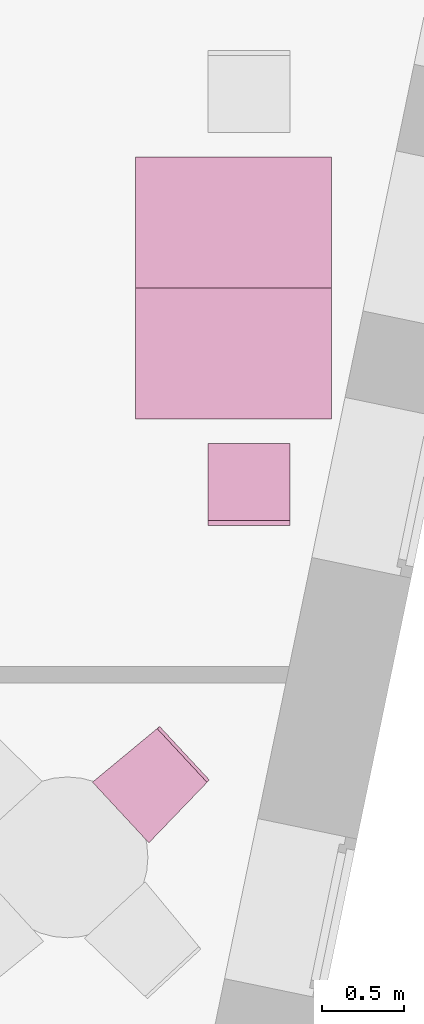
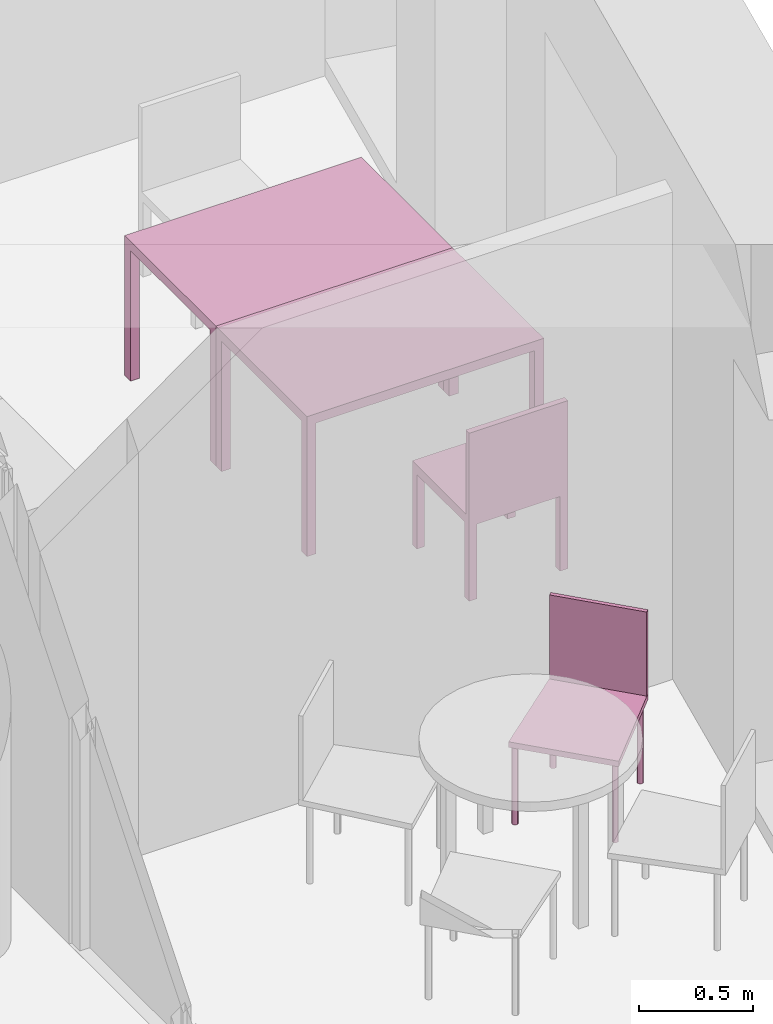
"""IFC4 building model written with IfcOpenShell, lengths in metres."""

from ifc_helpers import new_model, entity, si_unit, converted_unit, derived_unit, frame, origin, place, context, subcontext, project, spatial, faceted_brep, element, save


model = new_model("IFC4")

# Units and contexts
model_context = context("Model", 3, precision=1e-05, world=origin())
body_context = subcontext(model_context, "Body", "Model", "MODEL_VIEW")
ifc_project = project(units=[si_unit("LENGTHUNIT", "METRE"), si_unit("AREAUNIT", "SQUARE_METRE"), si_unit("VOLUMEUNIT", "CUBIC_METRE"), si_unit("MASSUNIT", "GRAM", prefix="KILO"), converted_unit("PLANEANGLEUNIT", "DEGREE", entity("IfcPlaneAngleMeasure", 0.0174532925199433), si_unit("PLANEANGLEUNIT", "RADIAN"), dimensions=[0, 0, 0, 0, 0, 0, 0]), derived_unit("THERMALTRANSMITTANCEUNIT", [(si_unit("POWERUNIT", "WATT"), 1), (si_unit("THERMODYNAMICTEMPERATUREUNIT", "KELVIN"), -1), (si_unit("LENGTHUNIT", "METRE"), -2)]), derived_unit("VOLUMETRICFLOWRATEUNIT", [(si_unit("LENGTHUNIT", "METRE"), 3), (converted_unit("TIMEUNIT", "hour", entity("IfcTimeMeasure", 3600.0), si_unit("TIMEUNIT", "SECOND"), dimensions=[0, 0, 1, 0, 0, 0, 0]), -1), (si_unit("LENGTHUNIT", "METRE"), -1)])], contexts=[model_context])

# Building, storeys
building_placement = place(None, origin())
building = spatial("IfcBuilding", under=ifc_project, at=building_placement, Name="HABITATGE PLURIFAMILIAR", CompositionType="ELEMENT")
storey_1_placement = place(building_placement, frame((0.0, 0.0, 6.25)))
storey_1 = spatial("IfcBuildingStorey", under=building, at=storey_1_placement, Name="PLANTA PRIMERA", CompositionType="ELEMENT", Elevation=6.25)
storey_2_placement = place(storey_1_placement, frame((0.0, 0.0, 3.35)))
storey_2 = spatial("IfcBuildingStorey", under=storey_1, at=storey_2_placement, Name="NOU", CompositionType="PARTIAL")

# Furniture
furniture_1_placement = place(storey_2_placement, frame((423.793146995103, 20.353890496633, -3.35)))
element("IfcFurniture", 1, at=furniture_1_placement, inside=storey_2, Name="Taula 120X80_P1", context=body_context, shape_type="Brep", body=[
    faceted_brep([(0.0464285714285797, 0.0500000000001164, 0.0), (0.0, 0.0500000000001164, 0.0), (0.0, 0.0, 0.0), (0.0464285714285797, 0.0, 0.0), (0.0464285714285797, 0.0, 0.7), (0.0, 0.0, 0.7), (0.0, 0.0500000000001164, 0.7), (0.0464285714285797, 0.0500000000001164, 0.7)], [[[0, 1, 2, 3]], [[4, 5, 6, 7]], [[3, 4, 7, 0]], [[2, 5, 4, 3]], [[1, 6, 5, 2]], [[0, 7, 6, 1]]], orient=[[False], [False], [False], [False], [False], [False]]),
    faceted_brep([(0.0464285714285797, 0.800069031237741, 0.0), (0.0, 0.800069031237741, 0.0), (0.0, 0.750069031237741, 0.0), (0.0464285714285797, 0.750069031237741, 0.0), (0.0464285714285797, 0.750069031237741, 0.7), (0.0, 0.750069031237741, 0.7), (0.0, 0.800069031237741, 0.7), (0.0464285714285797, 0.800069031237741, 0.7)], [[[0, 1, 2, 3]], [[4, 5, 6, 7]], [[3, 4, 7, 0]], [[2, 5, 4, 3]], [[1, 6, 5, 2]], [[0, 7, 6, 1]]], orient=[[False], [False], [False], [False], [False], [False]]),
    faceted_brep([(1.2, 0.05, 0.0), (1.15357142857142, 0.05, 0.0), (1.15357142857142, 0.0, 0.0), (1.2, 0.0, 0.0), (1.2, 0.0, 0.7), (1.15357142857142, 0.0, 0.7), (1.15357142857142, 0.05, 0.7), (1.2, 0.05, 0.7)], [[[0, 1, 2, 3]], [[4, 5, 6, 7]], [[3, 4, 7, 0]], [[2, 5, 4, 3]], [[1, 6, 5, 2]], [[0, 7, 6, 1]]], orient=[[False], [False], [False], [False], [False], [False]]),
    faceted_brep([(1.2, 0.800069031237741, 0.0), (1.15357142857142, 0.800069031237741, 0.0), (1.15357142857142, 0.750069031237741, 0.0), (1.2, 0.750069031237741, 0.0), (1.2, 0.750069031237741, 0.7), (1.15357142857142, 0.750069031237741, 0.7), (1.15357142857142, 0.800069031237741, 0.7), (1.2, 0.800069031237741, 0.7)], [[[0, 1, 2, 3]], [[4, 5, 6, 7]], [[3, 4, 7, 0]], [[2, 5, 4, 3]], [[1, 6, 5, 2]], [[0, 7, 6, 1]]], orient=[[False], [False], [False], [False], [False], [False]]),
    faceted_brep([(1.2, 0.800069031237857, 0.7), (0.0, 0.800069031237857, 0.7), (0.0, 0.0, 0.7), (1.2, 0.0, 0.7), (1.2, 0.0, 0.75), (0.0, 0.0, 0.75), (0.0, 0.800069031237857, 0.75), (1.2, 0.800069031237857, 0.75)], [[[0, 1, 2, 3]], [[4, 5, 6, 7]], [[3, 4, 7, 0]], [[2, 5, 4, 3]], [[1, 6, 5, 2]], [[0, 7, 6, 1]]], orient=[[False], [False], [False], [False], [False], [False]]),
])
furniture_2_placement = place(storey_2_placement, frame((423.793146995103, 19.5538214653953, -3.35)))
element("IfcFurniture", 2, at=furniture_2_placement, inside=storey_2, Name="Taula 120X80_P1", context=body_context, shape_type="Brep", body=[
    faceted_brep([(0.0464285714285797, 0.750069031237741, 0.0), (0.0464285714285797, 0.800069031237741, 0.0), (0.0, 0.800069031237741, 0.0), (0.0, 0.750069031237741, 0.0), (0.0464285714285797, 0.800069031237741, 0.7), (0.0464285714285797, 0.750069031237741, 0.7), (0.0, 0.750069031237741, 0.7), (0.0, 0.800069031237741, 0.7)], [[[0, 1, 2, 3]], [[4, 5, 6, 7]], [[1, 0, 5, 4]], [[2, 1, 4, 7]], [[3, 2, 7, 6]], [[0, 3, 6, 5]]], orient=[[False], [False], [False], [False], [False], [False]]),
    faceted_brep([(0.0464285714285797, 0.0, 0.0), (0.0464285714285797, 0.0500000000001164, 0.0), (0.0, 0.0500000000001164, 0.0), (0.0, 0.0, 0.0), (0.0464285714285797, 0.0500000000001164, 0.7), (0.0464285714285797, 0.0, 0.7), (0.0, 0.0, 0.7), (0.0, 0.0500000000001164, 0.7)], [[[0, 1, 2, 3]], [[4, 5, 6, 7]], [[1, 0, 5, 4]], [[2, 1, 4, 7]], [[3, 2, 7, 6]], [[0, 3, 6, 5]]], orient=[[False], [False], [False], [False], [False], [False]]),
    faceted_brep([(1.2, 0.750069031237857, 0.0), (1.2, 0.800069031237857, 0.0), (1.15357142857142, 0.800069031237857, 0.0), (1.15357142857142, 0.750069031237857, 0.0), (1.2, 0.800069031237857, 0.7), (1.2, 0.750069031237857, 0.7), (1.15357142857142, 0.750069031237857, 0.7), (1.15357142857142, 0.800069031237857, 0.7)], [[[0, 1, 2, 3]], [[4, 5, 6, 7]], [[1, 0, 5, 4]], [[2, 1, 4, 7]], [[3, 2, 7, 6]], [[0, 3, 6, 5]]], orient=[[False], [False], [False], [False], [False], [False]]),
    faceted_brep([(1.2, 0.0, 0.0), (1.2, 0.0500000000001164, 0.0), (1.15357142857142, 0.0500000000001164, 0.0), (1.15357142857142, 0.0, 0.0), (1.2, 0.0500000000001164, 0.7), (1.2, 0.0, 0.7), (1.15357142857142, 0.0, 0.7), (1.15357142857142, 0.0500000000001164, 0.7)], [[[0, 1, 2, 3]], [[4, 5, 6, 7]], [[1, 0, 5, 4]], [[2, 1, 4, 7]], [[3, 2, 7, 6]], [[0, 3, 6, 5]]], orient=[[False], [False], [False], [False], [False], [False]]),
    faceted_brep([(1.2, 0.0, 0.7), (1.2, 0.800069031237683, 0.7), (0.0, 0.800069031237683, 0.7), (0.0, 0.0, 0.7), (1.2, 0.800069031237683, 0.75), (1.2, 0.0, 0.75), (0.0, 0.0, 0.75), (0.0, 0.800069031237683, 0.75)], [[[0, 1, 2, 3]], [[4, 5, 6, 7]], [[1, 0, 5, 4]], [[2, 1, 4, 7]], [[3, 2, 7, 6]], [[0, 3, 6, 5]]], orient=[[False], [False], [False], [False], [False], [False]]),
])
furniture_3_placement = place(storey_2_placement, frame((424.238875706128, 18.9018937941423, -3.34942958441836)))
element("IfcFurniture", 3, at=furniture_3_placement, inside=storey_2, Name="Cadira d'Oficina_P1", context=body_context, shape_type="Brep", body=[
    faceted_brep([(0.0, 0.500000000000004, 0.4), (0.0, 0.0, 0.4), (0.5, 0.0, 0.4), (0.5, 0.500000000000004, 0.4), (0.0, 0.0, 0.45), (0.0, 0.500000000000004, 0.45), (0.5, 0.500000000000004, 0.45), (0.5, 0.0, 0.45)], [[[0, 1, 2, 3]], [[4, 5, 6, 7]], [[1, 0, 5, 4]], [[2, 1, 4, 7]], [[3, 2, 7, 6]], [[0, 3, 6, 5]]], orient=[[False], [False], [False], [False], [False], [False]]),
    faceted_brep([(0.5, 0.04, 0.0), (0.46, 0.04, 0.0), (0.46, 0.0, 0.0), (0.5, 0.0, 0.0), (0.46, 0.04, 0.4), (0.5, 0.04, 0.4), (0.5, 0.0, 0.4), (0.46, 0.0, 0.4)], [[[0, 1, 2, 3]], [[4, 5, 6, 7]], [[1, 0, 5, 4]], [[2, 1, 4, 7]], [[3, 2, 7, 6]], [[0, 3, 6, 5]]], orient=[[False], [False], [False], [False], [False], [False]]),
    faceted_brep([(0.5, 0.500000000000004, 0.0), (0.46, 0.500000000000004, 0.0), (0.46, 0.460000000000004, 0.0), (0.5, 0.460000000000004, 0.0), (0.46, 0.500000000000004, 0.4), (0.5, 0.500000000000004, 0.4), (0.5, 0.460000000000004, 0.4), (0.46, 0.460000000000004, 0.4)], [[[0, 1, 2, 3]], [[4, 5, 6, 7]], [[1, 0, 5, 4]], [[2, 1, 4, 7]], [[3, 2, 7, 6]], [[0, 3, 6, 5]]], orient=[[False], [False], [False], [False], [False], [False]]),
    faceted_brep([(0.04, 0.04, 0.0), (0.0, 0.04, 0.0), (0.0, 0.0, 0.0), (0.04, 0.0, 0.0), (0.0, 0.04, 0.4), (0.04, 0.04, 0.4), (0.04, 0.0, 0.4), (0.0, 0.0, 0.4)], [[[0, 1, 2, 3]], [[4, 5, 6, 7]], [[1, 0, 5, 4]], [[2, 1, 4, 7]], [[3, 2, 7, 6]], [[0, 3, 6, 5]]], orient=[[False], [False], [False], [False], [False], [False]]),
    faceted_brep([(0.04, 0.500000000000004, 0.0), (0.0, 0.500000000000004, 0.0), (0.0, 0.460000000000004, 0.0), (0.04, 0.460000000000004, 0.0), (0.0, 0.500000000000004, 0.4), (0.04, 0.500000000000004, 0.4), (0.04, 0.460000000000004, 0.4), (0.0, 0.460000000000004, 0.4)], [[[0, 1, 2, 3]], [[4, 5, 6, 7]], [[1, 0, 5, 4]], [[2, 1, 4, 7]], [[3, 2, 7, 6]], [[0, 3, 6, 5]]], orient=[[False], [False], [False], [False], [False], [False]]),
    faceted_brep([(0.5, 0.03, 0.45), (0.0, 0.03, 0.45), (0.0, 0.0, 0.45), (0.5, 0.0, 0.45), (0.0, 0.03, 0.9), (0.5, 0.03, 0.9), (0.5, 0.0, 0.9), (0.0, 0.0, 0.9)], [[[0, 1, 2, 3]], [[4, 5, 6, 7]], [[1, 0, 5, 4]], [[2, 1, 4, 7]], [[3, 2, 7, 6]], [[0, 3, 6, 5]]], orient=[[False], [False], [False], [False], [False], [False]]),
])
furniture_4_placement = place(storey_2_placement, frame((423.531584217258, 16.9610238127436, -3.35114412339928)))
element("IfcFurniture", 4, at=furniture_4_placement, inside=storey_2, Name="Cadira confient_P1", context=body_context, shape_type="Brep", body=[
    faceted_brep([(0.356669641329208, 0.0238389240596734, 0.0), (0.358424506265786, 0.0257626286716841, 0.0), (0.359818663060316, 0.027961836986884, 0.0), (0.360809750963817, 0.0303697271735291, 0.0), (0.361367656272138, 0.0329131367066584, 0.0), (0.361475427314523, 0.0355147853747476, 0.0), (0.361129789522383, 0.0380956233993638, 0.0), (0.360341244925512, 0.0405772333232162, 0.0), (0.359133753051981, 0.0428842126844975, 0.0), (0.357544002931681, 0.0449464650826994, 0.0), (0.355620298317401, 0.046701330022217, 0.0), (0.353421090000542, 0.0480954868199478, 0.0), (0.351013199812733, 0.0490865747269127, 0.0), (0.348469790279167, 0.0496444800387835, 0.0), (0.345868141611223, 0.0497522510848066, 0.0), (0.343287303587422, 0.0494066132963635, 0.0), (0.340805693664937, 0.0486180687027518, 0.0), (0.338498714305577, 0.0474105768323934, 0.0), (0.336436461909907, 0.0458208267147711, 0.0), (0.334681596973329, 0.0438971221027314, 0.0), (0.333287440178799, 0.0416979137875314, 0.0), (0.332296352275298, 0.0392900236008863, 0.0), (0.331738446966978, 0.036746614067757, 0.0), (0.331630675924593, 0.0341449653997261, 0.0), (0.331976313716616, 0.0315641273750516, 0.0), (0.332764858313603, 0.0290825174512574, 0.0), (0.333972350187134, 0.0267755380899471, 0.0), (0.335562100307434, 0.0247132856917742, 0.0), (0.337485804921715, 0.0229584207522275, 0.0), (0.339685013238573, 0.0215642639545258, 0.0), (0.342092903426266, 0.0205731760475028, 0.0), (0.344636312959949, 0.0200152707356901, 0.0), (0.347237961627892, 0.0199074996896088, 0.0), (0.349818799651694, 0.0202531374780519, 0.0), (0.352300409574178, 0.0210416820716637, 0.0), (0.354607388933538, 0.022249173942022, 0.0), (0.356669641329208, 0.0238389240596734, 0.448281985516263), (0.354607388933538, 0.022249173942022, 0.448281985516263), (0.352300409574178, 0.0210416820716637, 0.448281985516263), (0.349818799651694, 0.0202531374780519, 0.448281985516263), (0.347237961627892, 0.0199074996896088, 0.448281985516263), (0.344636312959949, 0.0200152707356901, 0.448281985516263), (0.342092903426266, 0.0205731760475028, 0.448281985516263), (0.339685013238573, 0.0215642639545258, 0.448281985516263), (0.337485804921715, 0.0229584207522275, 0.448281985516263), (0.335562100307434, 0.0247132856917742, 0.448281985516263), (0.333972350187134, 0.0267755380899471, 0.448281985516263), (0.332764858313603, 0.0290825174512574, 0.448281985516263), (0.331976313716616, 0.0315641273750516, 0.448281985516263), (0.331630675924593, 0.0341449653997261, 0.448281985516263), (0.331738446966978, 0.036746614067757, 0.448281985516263), (0.332296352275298, 0.0392900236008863, 0.448281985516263), (0.333287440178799, 0.0416979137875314, 0.448281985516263), (0.334681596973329, 0.0438971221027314, 0.448281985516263), (0.336436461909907, 0.0458208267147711, 0.448281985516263), (0.338498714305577, 0.0474105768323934, 0.448281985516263), (0.340805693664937, 0.0486180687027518, 0.448281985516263), (0.343287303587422, 0.0494066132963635, 0.448281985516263), (0.345868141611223, 0.0497522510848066, 0.448281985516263), (0.348469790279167, 0.0496444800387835, 0.448281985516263), (0.351013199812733, 0.0490865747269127, 0.448281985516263), (0.353421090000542, 0.0480954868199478, 0.448281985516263), (0.355620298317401, 0.046701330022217, 0.448281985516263), (0.357544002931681, 0.0449464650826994, 0.448281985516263), (0.359133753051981, 0.0428842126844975, 0.448281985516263), (0.360341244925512, 0.0405772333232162, 0.448281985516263), (0.361129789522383, 0.0380956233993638, 0.448281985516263), (0.361475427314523, 0.0355147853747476, 0.448281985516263), (0.361367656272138, 0.0329131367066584, 0.448281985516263), (0.360809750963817, 0.0303697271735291, 0.448281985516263), (0.359818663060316, 0.027961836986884, 0.448281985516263), (0.358424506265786, 0.0257626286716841, 0.448281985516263)], [[[0, 1, 2, 3, 4, 5, 6, 7, 8, 9, 10, 11, 12, 13, 14, 15, 16, 17, 18, 19, 20, 21, 22, 23, 24, 25, 26, 27, 28, 29, 30, 31, 32, 33, 34, 35]], [[36, 37, 38, 39, 40, 41, 42, 43, 44, 45, 46, 47, 48, 49, 50, 51, 52, 53, 54, 55, 56, 57, 58, 59, 60, 61, 62, 63, 64, 65, 66, 67, 68, 69, 70, 71]], [[1, 0, 36, 71]], [[2, 1, 71, 70]], [[3, 2, 70, 69]], [[4, 3, 69, 68]], [[5, 4, 68, 67]], [[6, 5, 67, 66]], [[7, 6, 66, 65]], [[8, 7, 65, 64]], [[9, 8, 64, 63]], [[10, 9, 63, 62]], [[11, 10, 62, 61]], [[12, 11, 61, 60]], [[13, 12, 60, 59]], [[14, 13, 59, 58]], [[15, 14, 58, 57]], [[16, 15, 57, 56]], [[17, 16, 56, 55]], [[18, 17, 55, 54]], [[19, 18, 54, 53]], [[20, 19, 53, 52]], [[21, 20, 52, 51]], [[22, 21, 51, 50]], [[23, 22, 50, 49]], [[24, 23, 49, 48]], [[25, 24, 48, 47]], [[26, 25, 47, 46]], [[27, 26, 46, 45]], [[28, 27, 45, 44]], [[29, 28, 44, 43]], [[30, 29, 43, 42]], [[31, 30, 42, 41]], [[32, 31, 41, 40]], [[33, 32, 40, 39]], [[34, 33, 39, 38]], [[35, 34, 38, 37]], [[0, 35, 37, 36]]], orient=[[False], [False], [False], [False], [False], [False], [False], [False], [False], [False], [False], [False], [False], [False], [False], [False], [False], [False], [False], [False], [False], [False], [False], [False], [False], [False], [False], [False], [False], [False], [False], [False], [False], [False], [False], [False], [False], [False]]),
    faceted_brep([(0.676724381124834, 0.358725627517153, 0.0), (0.678479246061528, 0.360649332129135, 0.0), (0.679873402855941, 0.362848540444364, 0.0), (0.680864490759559, 0.365256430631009, 0.0), (0.681422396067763, 0.367799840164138, 0.0), (0.681530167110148, 0.370401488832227, 0.0), (0.681184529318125, 0.372982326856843, 0.0), (0.680395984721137, 0.375463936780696, 0.0), (0.679188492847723, 0.377770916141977, 0.0), (0.677598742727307, 0.379833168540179, 0.0), (0.675675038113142, 0.381588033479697, 0.0), (0.673475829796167, 0.382982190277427, 0.0), (0.671067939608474, 0.383973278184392, 0.0), (0.668524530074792, 0.384531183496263, 0.0), (0.665922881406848, 0.384638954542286, 0.0), (0.663342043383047, 0.384293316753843, 0.0), (0.660860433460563, 0.383504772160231, 0.0), (0.658553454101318, 0.382297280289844, 0.0), (0.656491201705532, 0.380707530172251, 0.0), (0.654736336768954, 0.378783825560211, 0.0), (0.653342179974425, 0.376584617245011, 0.0), (0.652351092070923, 0.374176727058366, 0.0), (0.651793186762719, 0.371633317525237, 0.0), (0.651685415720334, 0.369031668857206, 0.0), (0.652031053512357, 0.366450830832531, 0.0), (0.652819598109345, 0.363969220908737, 0.0), (0.654027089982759, 0.361662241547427, 0.0), (0.655616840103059, 0.359599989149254, 0.0), (0.65754054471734, 0.357845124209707, 0.0), (0.659739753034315, 0.356450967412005, 0.0), (0.662147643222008, 0.355459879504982, 0.0), (0.66469105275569, 0.35490197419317, 0.0), (0.667292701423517, 0.354794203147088, 0.0), (0.669873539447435, 0.355139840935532, 0.0), (0.672355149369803, 0.355928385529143, 0.0), (0.674662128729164, 0.357135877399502, 0.0), (0.676724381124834, 0.358725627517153, 0.448281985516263), (0.674662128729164, 0.357135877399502, 0.448281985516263), (0.672355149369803, 0.355928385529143, 0.448281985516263), (0.669873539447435, 0.355139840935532, 0.448281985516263), (0.667292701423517, 0.354794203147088, 0.448281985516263), (0.66469105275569, 0.35490197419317, 0.448281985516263), (0.662147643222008, 0.355459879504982, 0.448281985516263), (0.659739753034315, 0.356450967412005, 0.448281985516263), (0.65754054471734, 0.357845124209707, 0.448281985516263), (0.655616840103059, 0.359599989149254, 0.448281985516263), (0.654027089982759, 0.361662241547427, 0.448281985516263), (0.652819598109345, 0.363969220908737, 0.448281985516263), (0.652031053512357, 0.366450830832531, 0.448281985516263), (0.651685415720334, 0.369031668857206, 0.448281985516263), (0.651793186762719, 0.371633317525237, 0.448281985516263), (0.652351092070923, 0.374176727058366, 0.448281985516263), (0.653342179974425, 0.376584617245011, 0.448281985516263), (0.654736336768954, 0.378783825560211, 0.448281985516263), (0.656491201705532, 0.380707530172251, 0.448281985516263), (0.658553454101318, 0.382297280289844, 0.448281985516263), (0.660860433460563, 0.383504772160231, 0.448281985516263), (0.663342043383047, 0.384293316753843, 0.448281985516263), (0.665922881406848, 0.384638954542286, 0.448281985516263), (0.668524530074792, 0.384531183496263, 0.448281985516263), (0.671067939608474, 0.383973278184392, 0.448281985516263), (0.673475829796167, 0.382982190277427, 0.448281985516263), (0.675675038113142, 0.381588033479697, 0.448281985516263), (0.677598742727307, 0.379833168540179, 0.448281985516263), (0.679188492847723, 0.377770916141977, 0.448281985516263), (0.680395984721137, 0.375463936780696, 0.448281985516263), (0.681184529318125, 0.372982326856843, 0.448281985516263), (0.681530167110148, 0.370401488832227, 0.448281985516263), (0.681422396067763, 0.367799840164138, 0.448281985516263), (0.680864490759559, 0.365256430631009, 0.448281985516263), (0.679873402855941, 0.362848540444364, 0.448281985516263), (0.678479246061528, 0.360649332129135, 0.448281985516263)], [[[0, 1, 2, 3, 4, 5, 6, 7, 8, 9, 10, 11, 12, 13, 14, 15, 16, 17, 18, 19, 20, 21, 22, 23, 24, 25, 26, 27, 28, 29, 30, 31, 32, 33, 34, 35]], [[36, 37, 38, 39, 40, 41, 42, 43, 44, 45, 46, 47, 48, 49, 50, 51, 52, 53, 54, 55, 56, 57, 58, 59, 60, 61, 62, 63, 64, 65, 66, 67, 68, 69, 70, 71]], [[1, 0, 36, 71]], [[2, 1, 71, 70]], [[3, 2, 70, 69]], [[4, 3, 69, 68]], [[5, 4, 68, 67]], [[6, 5, 67, 66]], [[7, 6, 66, 65]], [[8, 7, 65, 64]], [[9, 8, 64, 63]], [[10, 9, 63, 62]], [[11, 10, 62, 61]], [[12, 11, 61, 60]], [[13, 12, 60, 59]], [[14, 13, 59, 58]], [[15, 14, 58, 57]], [[16, 15, 57, 56]], [[17, 16, 56, 55]], [[18, 17, 55, 54]], [[19, 18, 54, 53]], [[20, 19, 53, 52]], [[21, 20, 52, 51]], [[22, 21, 51, 50]], [[23, 22, 50, 49]], [[24, 23, 49, 48]], [[25, 24, 48, 47]], [[26, 25, 47, 46]], [[27, 26, 46, 45]], [[28, 27, 45, 44]], [[29, 28, 44, 43]], [[30, 29, 43, 42]], [[31, 30, 42, 41]], [[32, 31, 41, 40]], [[33, 32, 40, 39]], [[34, 33, 39, 38]], [[35, 34, 38, 37]], [[0, 35, 37, 36]]], orient=[[False], [False], [False], [False], [False], [False], [False], [False], [False], [False], [False], [False], [False], [False], [False], [False], [False], [False], [False], [False], [False], [False], [False], [False], [False], [False], [False], [False], [False], [False], [False], [False], [False], [False], [False], [False], [False], [False]]),
    faceted_brep([(0.0436743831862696, 0.360935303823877, 0.0), (0.0454292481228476, 0.362859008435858, 0.0), (0.046823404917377, 0.365058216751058, 0.0), (0.0478144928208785, 0.367466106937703, 0.0), (0.0483723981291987, 0.370009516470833, 0.0), (0.0484801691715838, 0.372611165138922, 0.0), (0.0481345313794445, 0.375192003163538, 0.0), (0.0473459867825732, 0.377673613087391, 0.0), (0.0461384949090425, 0.379980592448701, 0.0), (0.0445487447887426, 0.382042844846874, 0.0), (0.0426250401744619, 0.38379770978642, 0.0), (0.040425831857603, 0.385191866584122, 0.0), (0.0380179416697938, 0.386182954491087, 0.0), (0.0354745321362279, 0.386740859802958, 0.0), (0.0328728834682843, 0.386848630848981, 0.0), (0.0302920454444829, 0.386502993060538, 0.0), (0.0278104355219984, 0.385714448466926, 0.0), (0.025503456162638, 0.384506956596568, 0.0), (0.0234412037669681, 0.382917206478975, 0.0), (0.02168633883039, 0.380993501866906, 0.0), (0.0202921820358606, 0.378794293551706, 0.0), (0.0193010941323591, 0.376386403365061, 0.0), (0.018743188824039, 0.373842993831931, 0.0), (0.0186354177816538, 0.3712413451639, 0.0), (0.0189810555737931, 0.368660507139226, 0.0), (0.0197696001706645, 0.366178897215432, 0.0), (0.0209770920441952, 0.363871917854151, 0.0), (0.022566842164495, 0.361809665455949, 0.0), (0.0244905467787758, 0.360054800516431, 0.0), (0.0266897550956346, 0.3586606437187, 0.0), (0.0290976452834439, 0.357669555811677, 0.0), (0.0316410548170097, 0.357111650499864, 0.0), (0.0342427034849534, 0.357003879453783, 0.0), (0.0368235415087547, 0.357349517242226, 0.0), (0.0393051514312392, 0.358138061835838, 0.0), (0.0416121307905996, 0.359345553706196, 0.0), (0.0436743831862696, 0.360935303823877, 0.448281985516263), (0.0416121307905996, 0.359345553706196, 0.448281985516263), (0.0393051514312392, 0.358138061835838, 0.448281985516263), (0.0368235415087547, 0.357349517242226, 0.448281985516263), (0.0342427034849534, 0.357003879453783, 0.448281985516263), (0.0316410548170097, 0.357111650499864, 0.448281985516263), (0.0290976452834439, 0.357669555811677, 0.448281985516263), (0.0266897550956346, 0.3586606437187, 0.448281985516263), (0.0244905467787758, 0.360054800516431, 0.448281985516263), (0.022566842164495, 0.361809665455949, 0.448281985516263), (0.0209770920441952, 0.363871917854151, 0.448281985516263), (0.0197696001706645, 0.366178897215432, 0.448281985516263), (0.0189810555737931, 0.368660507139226, 0.448281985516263), (0.0186354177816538, 0.3712413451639, 0.448281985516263), (0.018743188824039, 0.373842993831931, 0.448281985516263), (0.0193010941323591, 0.376386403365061, 0.448281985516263), (0.0202921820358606, 0.378794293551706, 0.448281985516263), (0.02168633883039, 0.380993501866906, 0.448281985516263), (0.0234412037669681, 0.382917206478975, 0.448281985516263), (0.025503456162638, 0.384506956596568, 0.448281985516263), (0.0278104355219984, 0.385714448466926, 0.448281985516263), (0.0302920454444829, 0.386502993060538, 0.448281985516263), (0.0328728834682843, 0.386848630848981, 0.448281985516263), (0.0354745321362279, 0.386740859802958, 0.448281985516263), (0.0380179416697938, 0.386182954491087, 0.448281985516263), (0.040425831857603, 0.385191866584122, 0.448281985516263), (0.0426250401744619, 0.38379770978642, 0.448281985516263), (0.0445487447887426, 0.382042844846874, 0.448281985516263), (0.0461384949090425, 0.379980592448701, 0.448281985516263), (0.0473459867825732, 0.377673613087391, 0.448281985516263), (0.0481345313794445, 0.375192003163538, 0.448281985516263), (0.0484801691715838, 0.372611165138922, 0.448281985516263), (0.0483723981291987, 0.370009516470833, 0.448281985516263), (0.0478144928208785, 0.367466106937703, 0.448281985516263), (0.046823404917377, 0.365058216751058, 0.448281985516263), (0.0454292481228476, 0.362859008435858, 0.448281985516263)], [[[0, 1, 2, 3, 4, 5, 6, 7, 8, 9, 10, 11, 12, 13, 14, 15, 16, 17, 18, 19, 20, 21, 22, 23, 24, 25, 26, 27, 28, 29, 30, 31, 32, 33, 34, 35]], [[36, 37, 38, 39, 40, 41, 42, 43, 44, 45, 46, 47, 48, 49, 50, 51, 52, 53, 54, 55, 56, 57, 58, 59, 60, 61, 62, 63, 64, 65, 66, 67, 68, 69, 70, 71]], [[1, 0, 36, 71]], [[2, 1, 71, 70]], [[3, 2, 70, 69]], [[4, 3, 69, 68]], [[5, 4, 68, 67]], [[6, 5, 67, 66]], [[7, 6, 66, 65]], [[8, 7, 65, 64]], [[9, 8, 64, 63]], [[10, 9, 63, 62]], [[11, 10, 62, 61]], [[12, 11, 61, 60]], [[13, 12, 60, 59]], [[14, 13, 59, 58]], [[15, 14, 58, 57]], [[16, 15, 57, 56]], [[17, 16, 56, 55]], [[18, 17, 55, 54]], [[19, 18, 54, 53]], [[20, 19, 53, 52]], [[21, 20, 52, 51]], [[22, 21, 51, 50]], [[23, 22, 50, 49]], [[24, 23, 49, 48]], [[25, 24, 48, 47]], [[26, 25, 47, 46]], [[27, 26, 46, 45]], [[28, 27, 45, 44]], [[29, 28, 44, 43]], [[30, 29, 43, 42]], [[31, 30, 42, 41]], [[32, 31, 41, 40]], [[33, 32, 40, 39]], [[34, 33, 39, 38]], [[35, 34, 38, 37]], [[0, 35, 37, 36]]], orient=[[False], [False], [False], [False], [False], [False], [False], [False], [False], [False], [False], [False], [False], [False], [False], [False], [False], [False], [False], [False], [False], [False], [False], [False], [False], [False], [False], [False], [False], [False], [False], [False], [False], [False], [False], [False], [False], [False]]),
    faceted_brep([(0.404554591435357, 0.651852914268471, 0.0), (0.406309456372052, 0.65377661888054, 0.0), (0.407703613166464, 0.65597582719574, 0.0), (0.408694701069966, 0.658383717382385, 0.0), (0.40925260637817, 0.660927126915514, 0.0), (0.409360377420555, 0.663528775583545, 0.0), (0.409014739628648, 0.66610961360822, 0.0), (0.408226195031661, 0.668591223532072, 0.0), (0.40701870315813, 0.670898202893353, 0.0), (0.40542895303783, 0.672960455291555, 0.0), (0.403505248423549, 0.674715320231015, 0.0), (0.401306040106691, 0.676109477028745, 0.0), (0.398898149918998, 0.677100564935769, 0.0), (0.396354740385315, 0.677658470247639, 0.0), (0.393753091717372, 0.677766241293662, 0.0), (0.39117225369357, 0.677420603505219, 0.0), (0.388690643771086, 0.676632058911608, 0.0), (0.386383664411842, 0.675424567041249, 0.0), (0.384321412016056, 0.673834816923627, 0.0), (0.382566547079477, 0.671911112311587, 0.0), (0.381172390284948, 0.669711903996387, 0.0), (0.380181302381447, 0.667304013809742, 0.0), (0.379623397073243, 0.664760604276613, 0.0), (0.379515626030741, 0.662158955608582, 0.0), (0.379861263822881, 0.659578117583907, 0.0), (0.380649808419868, 0.657096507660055, 0.0), (0.381857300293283, 0.654789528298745, 0.0), (0.383447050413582, 0.65272727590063, 0.0), (0.385370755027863, 0.650972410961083, 0.0), (0.387569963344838, 0.649578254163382, 0.0), (0.389977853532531, 0.648587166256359, 0.0), (0.392521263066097, 0.648029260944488, 0.0), (0.395122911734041, 0.647921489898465, 0.0), (0.397703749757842, 0.648267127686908, 0.0), (0.400185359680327, 0.64905567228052, 0.0), (0.402492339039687, 0.650263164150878, 0.0), (0.404554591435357, 0.651852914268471, 0.448281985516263), (0.402492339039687, 0.650263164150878, 0.448281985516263), (0.400185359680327, 0.64905567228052, 0.448281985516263), (0.397703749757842, 0.648267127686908, 0.448281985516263), (0.395122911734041, 0.647921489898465, 0.448281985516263), (0.392521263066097, 0.648029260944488, 0.448281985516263), (0.389977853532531, 0.648587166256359, 0.448281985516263), (0.387569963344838, 0.649578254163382, 0.448281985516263), (0.385370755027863, 0.650972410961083, 0.448281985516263), (0.383447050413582, 0.65272727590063, 0.448281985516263), (0.381857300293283, 0.654789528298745, 0.448281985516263), (0.380649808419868, 0.657096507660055, 0.448281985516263), (0.379861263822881, 0.659578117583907, 0.448281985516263), (0.379515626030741, 0.662158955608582, 0.448281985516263), (0.379623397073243, 0.664760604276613, 0.448281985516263), (0.380181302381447, 0.667304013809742, 0.448281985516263), (0.381172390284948, 0.669711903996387, 0.448281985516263), (0.382566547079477, 0.671911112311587, 0.448281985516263), (0.384321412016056, 0.673834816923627, 0.448281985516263), (0.386383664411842, 0.675424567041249, 0.448281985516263), (0.388690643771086, 0.676632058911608, 0.448281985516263), (0.39117225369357, 0.677420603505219, 0.448281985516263), (0.393753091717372, 0.677766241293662, 0.448281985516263), (0.396354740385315, 0.677658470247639, 0.448281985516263), (0.398898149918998, 0.677100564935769, 0.448281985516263), (0.401306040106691, 0.676109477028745, 0.448281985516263), (0.403505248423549, 0.674715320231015, 0.448281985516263), (0.40542895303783, 0.672960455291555, 0.448281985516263), (0.40701870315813, 0.670898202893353, 0.448281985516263), (0.408226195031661, 0.668591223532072, 0.448281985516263), (0.409014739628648, 0.66610961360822, 0.448281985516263), (0.409360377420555, 0.663528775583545, 0.448281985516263), (0.40925260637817, 0.660927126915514, 0.448281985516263), (0.408694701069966, 0.658383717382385, 0.448281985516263), (0.407703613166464, 0.65597582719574, 0.448281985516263), (0.406309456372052, 0.65377661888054, 0.448281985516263)], [[[0, 1, 2, 3, 4, 5, 6, 7, 8, 9, 10, 11, 12, 13, 14, 15, 16, 17, 18, 19, 20, 21, 22, 23, 24, 25, 26, 27, 28, 29, 30, 31, 32, 33, 34, 35]], [[36, 37, 38, 39, 40, 41, 42, 43, 44, 45, 46, 47, 48, 49, 50, 51, 52, 53, 54, 55, 56, 57, 58, 59, 60, 61, 62, 63, 64, 65, 66, 67, 68, 69, 70, 71]], [[1, 0, 36, 71]], [[2, 1, 71, 70]], [[3, 2, 70, 69]], [[4, 3, 69, 68]], [[5, 4, 68, 67]], [[6, 5, 67, 66]], [[7, 6, 66, 65]], [[8, 7, 65, 64]], [[9, 8, 64, 63]], [[10, 9, 63, 62]], [[11, 10, 62, 61]], [[12, 11, 61, 60]], [[13, 12, 60, 59]], [[14, 13, 59, 58]], [[15, 14, 58, 57]], [[16, 15, 57, 56]], [[17, 16, 56, 55]], [[18, 17, 55, 54]], [[19, 18, 54, 53]], [[20, 19, 53, 52]], [[21, 20, 52, 51]], [[22, 21, 51, 50]], [[23, 22, 50, 49]], [[24, 23, 49, 48]], [[25, 24, 48, 47]], [[26, 25, 47, 46]], [[27, 26, 46, 45]], [[28, 27, 45, 44]], [[29, 28, 44, 43]], [[30, 29, 43, 42]], [[31, 30, 42, 41]], [[32, 31, 41, 40]], [[33, 32, 40, 39]], [[34, 33, 39, 38]], [[35, 34, 38, 37]], [[0, 35, 37, 36]]], orient=[[False], [False], [False], [False], [False], [False], [False], [False], [False], [False], [False], [False], [False], [False], [False], [False], [False], [False], [False], [False], [False], [False], [False], [False], [False], [False], [False], [False], [False], [False], [False], [False], [False], [False], [False], [False], [False], [False]]),
    faceted_brep([(0.410717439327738, 0.711598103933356, 0.418281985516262), (0.0, 0.371183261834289, 0.418281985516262), (0.344645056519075, 0.0, 0.418281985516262), (0.714537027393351, 0.384383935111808, 0.418281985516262), (0.0, 0.371183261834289, 0.448281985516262), (0.410717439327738, 0.711598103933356, 0.448281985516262), (0.714537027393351, 0.384383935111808, 0.448281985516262), (0.344645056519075, 0.0, 0.448281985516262)], [[[0, 1, 2, 3]], [[4, 5, 6, 7]], [[1, 0, 5, 4]], [[2, 1, 4, 7]], [[3, 2, 7, 6]], [[0, 3, 6, 5]]], orient=[[False], [False], [False], [False], [False], [False]]),
    faceted_brep([(0.39606107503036, 0.697989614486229, 0.448281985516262), (0.699880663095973, 0.37077544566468, 0.448281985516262), (0.714537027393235, 0.384383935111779, 0.448281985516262), (0.410717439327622, 0.711598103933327, 0.448281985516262), (0.699880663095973, 0.37077544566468, 0.898281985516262), (0.39606107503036, 0.697989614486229, 0.898281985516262), (0.410717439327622, 0.711598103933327, 0.898281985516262), (0.714537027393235, 0.384383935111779, 0.898281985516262)], [[[0, 1, 2, 3]], [[4, 5, 6, 7]], [[1, 0, 5, 4]], [[2, 1, 4, 7]], [[3, 2, 7, 6]], [[0, 3, 6, 5]]], orient=[[False], [False], [False], [False], [False], [False]]),
])

save(model, "model.ifc")
